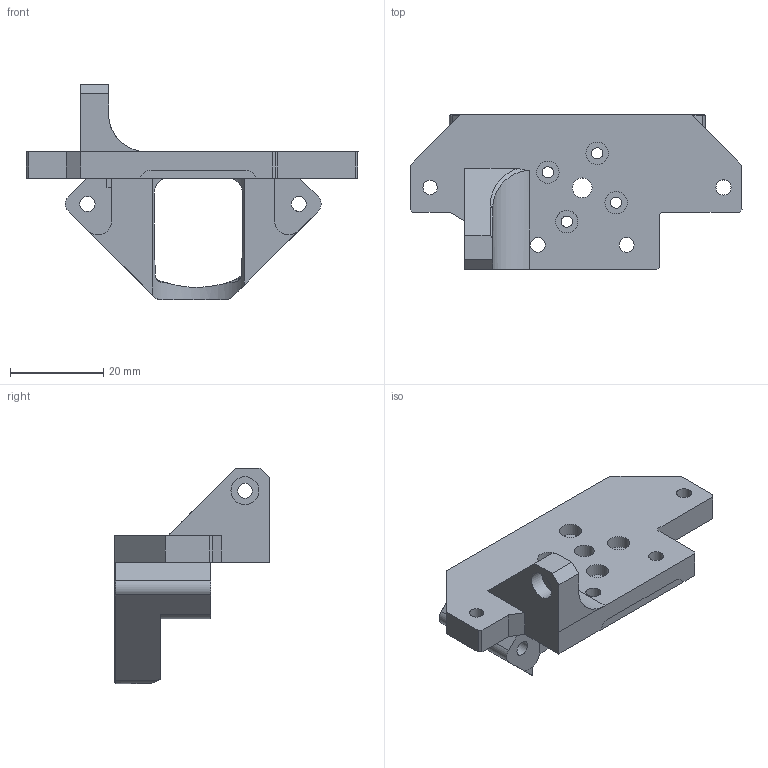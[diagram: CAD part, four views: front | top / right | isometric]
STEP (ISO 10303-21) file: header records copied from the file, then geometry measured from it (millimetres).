
FILE_DESCRIPTION(/* description */ (''),/* implementation_level */ '2;1');
FILE_NAME(/* name */ 'C:/Users/Martin/Documents/icarus-2.1/icarus-2-current-step-files/2-mounts/mount-lgx-lite-dragonfly-bmo-2.1.step',/* time_stamp */ '2022-08-22T21:34:53+02:00',/* author */ (''),/* organization */ (''),/* preprocessor_version */ 'ST-DEVELOPER v19',/* originating_system */ 'Autodesk Translation Framework v11.7.0.108',/* authorisation */ '');
FILE_SCHEMA (('AUTOMOTIVE_DESIGN { 1 0 10303 214 3 1 1 }'));
Length unit declared in the file: millimetre
Products named in the file (1): icarus-2-hotend-extruder-mounts
Bounding box: 71.07 x 33.12 x 46.08 mm (x, y, z)
Volume: 16721.7 mm3; surface area: 8849.1 mm2
Topology: 1 solids, 1 shells, 114 faces, 332 edges, 224 vertices
Faces by surface type: plane 61, cylinder 29, bspline 16, cone 8
Full cylindrical faces by diameter (mm): 2.4 x4, 3.1 x1, 3.15 x1, 3.2 x2, 3.25 x4, 4.2 x1, 4.8 x4, 6 x3
Entity records: 4629 total; most frequent: CARTESIAN_POINT 1607, ORIENTED_EDGE 664, DIRECTION 542, EDGE_CURVE 332, VERTEX_POINT 224, LINE 190, VECTOR 190, AXIS2_PLACEMENT_3D 176
